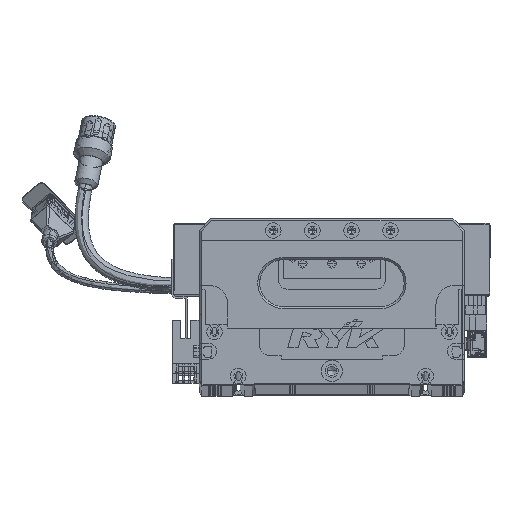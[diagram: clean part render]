
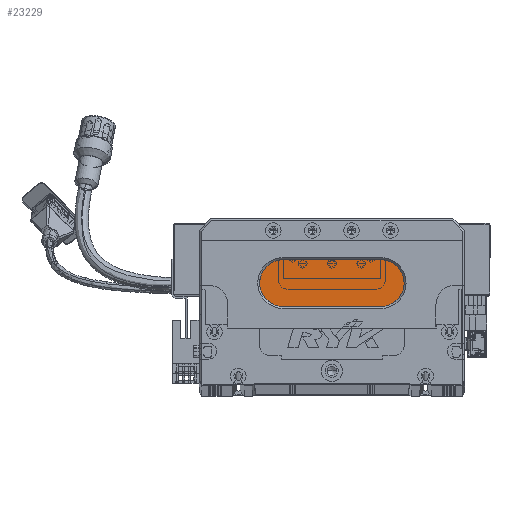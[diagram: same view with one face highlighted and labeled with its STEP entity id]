
A CAD part, top view. The second image highlights one B-rep face of the part: STEP entity #23229.
In plain terms, the highlighted planar face has unit normal (0, 0, 1) as drawn and (0, 0, -1) by its records, which use the part's own axes.
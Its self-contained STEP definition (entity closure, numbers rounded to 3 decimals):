
#3782 = ORIENTED_EDGE ( 'NONE', *, *, #56958, .T. ) ;
#4476 = ORIENTED_EDGE ( 'NONE', *, *, #134754, .T. ) ;
#16799 = DIRECTION ( 'NONE',  ( -1., 0., 0. ) ) ;
#18715 = CARTESIAN_POINT ( 'NONE',  ( 93., 52., 13. ) ) ;
#20578 = VERTEX_POINT ( 'NONE', #29380 ) ;
#21252 = DIRECTION ( 'NONE',  ( 0., 0., -1. ) ) ;
#21674 = CARTESIAN_POINT ( 'NONE',  ( 43., 64., 13. ) ) ;
#22868 = CIRCLE ( 'NONE', #130807, 12. ) ;
#23229 = ADVANCED_FACE ( 'NONE', ( #85120 ), #142429, .T. ) ;
#26299 = CARTESIAN_POINT ( 'NONE',  ( 93., 40., 13. ) ) ;
#27524 = VERTEX_POINT ( 'NONE', #44019 ) ;
#29380 = CARTESIAN_POINT ( 'NONE',  ( 31., 52., 13. ) ) ;
#30407 = DIRECTION ( 'NONE',  ( -1., 0., 0. ) ) ;
#30459 = VERTEX_POINT ( 'NONE', #136034 ) ;
#36561 = EDGE_CURVE ( 'NONE', #20578, #52420, #62880, .T. ) ;
#36629 = VECTOR ( 'NONE', #16799, 1000. ) ;
#41612 = EDGE_LOOP ( 'NONE', ( #4476, #143507, #3782, #140959, #80216 ) ) ;
#44019 = CARTESIAN_POINT ( 'NONE',  ( 93., 64., 13. ) ) ;
#52420 = VERTEX_POINT ( 'NONE', #21674 ) ;
#52610 = LINE ( 'NONE', #26299, #36629 ) ;
#56958 = EDGE_CURVE ( 'NONE', #30459, #20578, #142491, .T. ) ;
#62880 = CIRCLE ( 'NONE', #75421, 12. ) ;
#63213 = DIRECTION ( 'NONE',  ( 0., 0., -1. ) ) ;
#67232 = EDGE_CURVE ( 'NONE', #111960, #30459, #52610, .T. ) ;
#67877 = LINE ( 'NONE', #106633, #83847 ) ;
#74376 = DIRECTION ( 'NONE',  ( -1., 0., 0. ) ) ;
#75059 = CARTESIAN_POINT ( 'NONE',  ( 93., 40., 13. ) ) ;
#75421 = AXIS2_PLACEMENT_3D ( 'NONE', #98766, #21252, #145463 ) ;
#77171 = DIRECTION ( 'NONE',  ( 0., 0., -1. ) ) ;
#80216 = ORIENTED_EDGE ( 'NONE', *, *, #92573, .T. ) ;
#83847 = VECTOR ( 'NONE', #129040, 1000. ) ;
#85120 = FACE_OUTER_BOUND ( 'NONE', #41612, .T. ) ;
#87154 = DIRECTION ( 'NONE',  ( -1., 0., 0. ) ) ;
#92573 = EDGE_CURVE ( 'NONE', #52420, #27524, #67877, .T. ) ;
#95982 = AXIS2_PLACEMENT_3D ( 'NONE', #143786, #77171, #87154 ) ;
#98766 = CARTESIAN_POINT ( 'NONE',  ( 43., 52., 13. ) ) ;
#99117 = DIRECTION ( 'NONE',  ( 0., 0., -1. ) ) ;
#106633 = CARTESIAN_POINT ( 'NONE',  ( 93., 64., 13. ) ) ;
#111960 = VERTEX_POINT ( 'NONE', #75059 ) ;
#120873 = AXIS2_PLACEMENT_3D ( 'NONE', #18715, #99117, #74376 ) ;
#129040 = DIRECTION ( 'NONE',  ( 1., 0., 0. ) ) ;
#130807 = AXIS2_PLACEMENT_3D ( 'NONE', #133274, #63213, #30407 ) ;
#133274 = CARTESIAN_POINT ( 'NONE',  ( 93., 52., 13. ) ) ;
#134754 = EDGE_CURVE ( 'NONE', #27524, #111960, #22868, .T. ) ;
#136034 = CARTESIAN_POINT ( 'NONE',  ( 43., 40., 13. ) ) ;
#140959 = ORIENTED_EDGE ( 'NONE', *, *, #36561, .T. ) ;
#142429 = PLANE ( 'NONE',  #120873 ) ;
#142491 = CIRCLE ( 'NONE', #95982, 12. ) ;
#143507 = ORIENTED_EDGE ( 'NONE', *, *, #67232, .T. ) ;
#143786 = CARTESIAN_POINT ( 'NONE',  ( 43., 52., 13. ) ) ;
#145463 = DIRECTION ( 'NONE',  ( -1., 0., 0. ) ) ;
